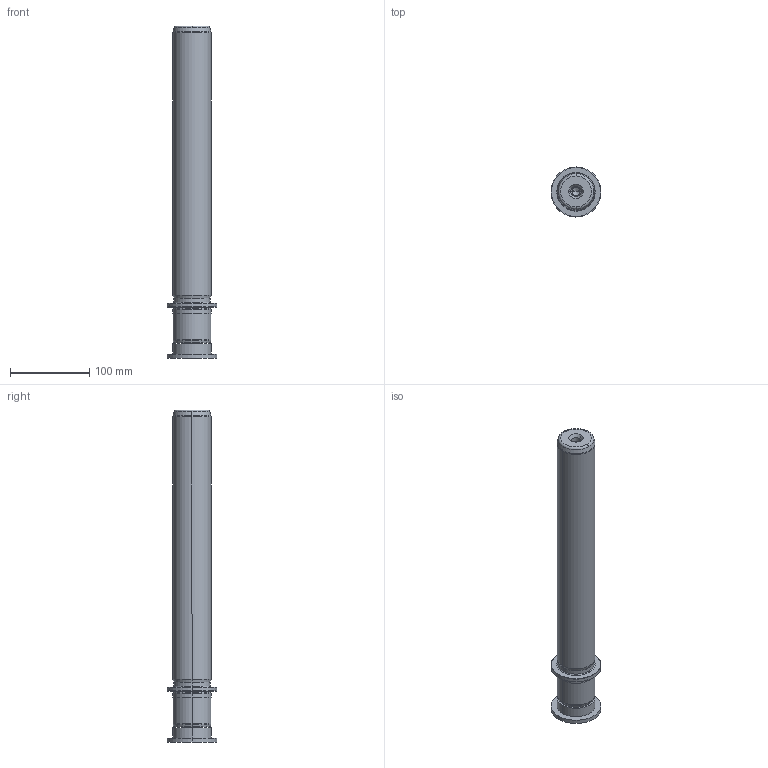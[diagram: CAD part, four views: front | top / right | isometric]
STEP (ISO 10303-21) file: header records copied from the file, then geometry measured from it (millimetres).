
FILE_DESCRIPTION((''),'2;1');
FILE_NAME('P22_048_355.stp','2009-11-02T10:42:44',(''),(''),'Mechanical Desktop 2009','Mechanical Desktop 2009',', , ');
FILE_SCHEMA(('CONFIG_CONTROL_DESIGN'));
Length unit declared in the file: millimetre
Products named in the file (2): Product; blmdl1
Assembly tree (1 placements, depth 2):
  Product
    blmdl1
Bounding box: 63 x 63 x 419 mm (x, y, z)
Volume: 760132 mm3; surface area: 81013.5 mm2
Topology: 3 solids, 3 shells, 99 faces, 237 edges, 149 vertices
Faces by surface type: cylinder 32, cone 28, plane 19, torus 10, bspline 10
Entity records: 3419 total; most frequent: CARTESIAN_POINT 923, DIRECTION 570, ORIENTED_EDGE 466, AXIS2_PLACEMENT_3D 246, EDGE_CURVE 233, CIRCLE 155, VERTEX_POINT 149, EDGE_LOOP 110
